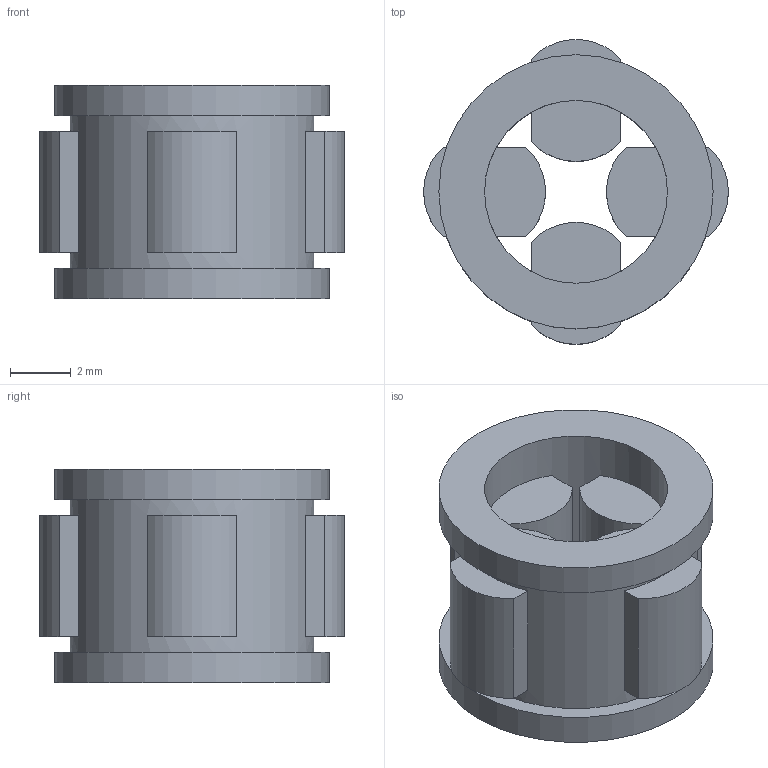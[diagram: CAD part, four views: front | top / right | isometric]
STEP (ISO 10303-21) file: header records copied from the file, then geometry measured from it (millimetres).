
FILE_DESCRIPTION(/* description */ (''),/* implementation_level */ '2;1');
FILE_NAME(/* name */ '300390 FE 410 Z2.stp',/* time_stamp */ '2016-11-03T13:44:13+01:00',/* author */ (''),/* organization */ (''),/* preprocessor_version */ 'ST-DEVELOPER v15',/* originating_system */ 'SIEMENS PLM Software NX 8.5',/* authorisation */ '');
FILE_SCHEMA (('CONFIG_CONTROL_DESIGN'));
Length unit declared in the file: millimetre
Products named in the file (1): ATE0000079_01
Bounding box: 10 x 10 x 7 mm (x, y, z)
Volume: 301.6 mm3; surface area: 531.8 mm2
Topology: 1 solids, 1 shells, 48 faces, 114 edges, 76 vertices
Faces by surface type: plane 36, cylinder 12
Full cylindrical faces by diameter (mm): 6 x1, 8 x1, 9 x2
Entity records: 1420 total; most frequent: DIRECTION 242, CARTESIAN_POINT 225, ORIENTED_EDGE 208, EDGE_CURVE 104, AXIS2_PLACEMENT_3D 89, VERTEX_POINT 72, LINE 64, VECTOR 64
